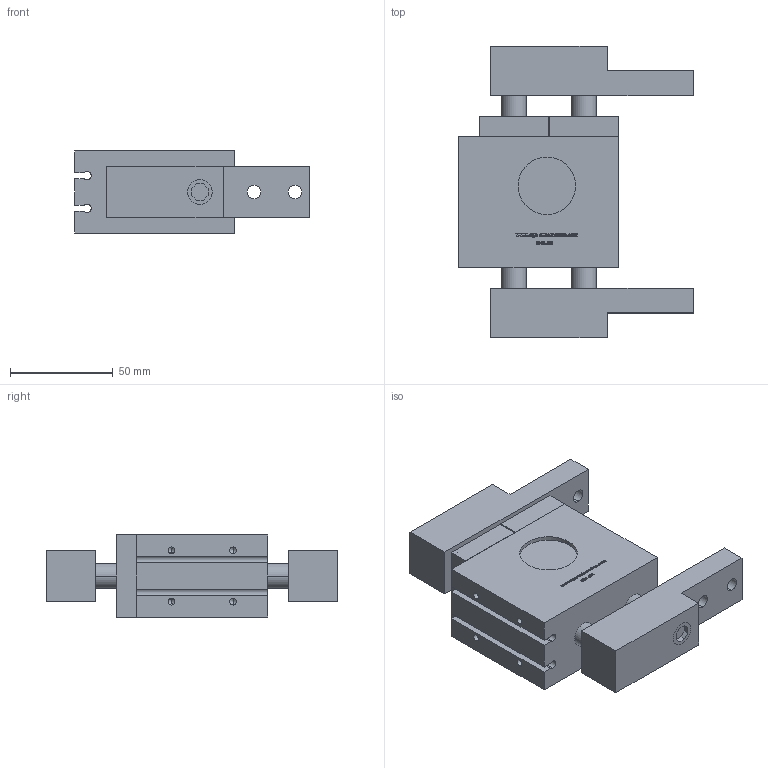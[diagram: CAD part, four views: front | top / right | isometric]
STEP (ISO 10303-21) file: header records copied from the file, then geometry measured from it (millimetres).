
FILE_DESCRIPTION (( 'STEP AP203' ), '1' );
FILE_NAME ('GDL.32open.STEP', '2011-11-07T09:56:05', ( 'Christophe Gaillard' ), ( 'SGA' ), 'SwSTEP 2.0', 'SolidWorks 2010', '' );
FILE_SCHEMA (( 'CONFIG_CONTROL_DESIGN' ));
Products named in the file (6): Pièce1; GDL.32_Default; GDL.32open; p; Pièce3; piece
Assembly tree (6 placements, depth 2):
  GDL.32open
    Pièce3  x2
    piece
    Pièce1
    p
    GDL.32_Default
Bounding box: 114.44 x 142 x 40 mm (x, y, z)
Volume: 316692.4 mm3; surface area: 70034.8 mm2
Topology: 6 solids, 6 shells, 570 faces, 1509 edges, 996 vertices
Faces by surface type: plane 285, bspline 207, cylinder 66, cone 12
Entity records: 31805 total; most frequent: CARTESIAN_POINT 18618, ORIENTED_EDGE 2934, DIRECTION 1899, EDGE_CURVE 1467, VERTEX_POINT 976, VECTOR 925, LINE 925, EDGE_LOOP 633
